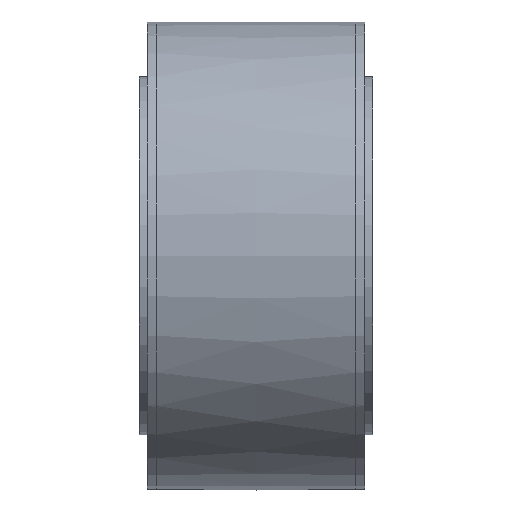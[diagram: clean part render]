
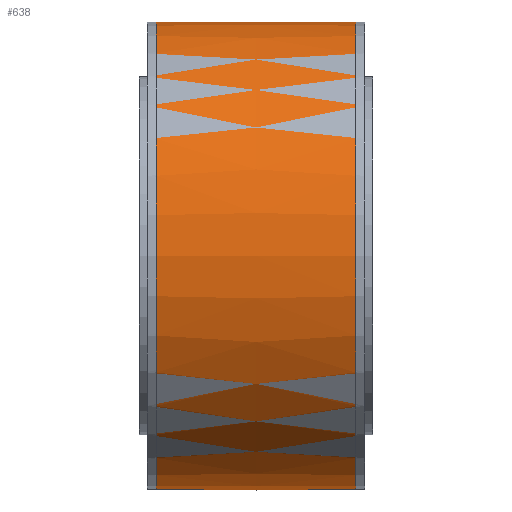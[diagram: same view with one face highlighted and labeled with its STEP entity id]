
A CAD part, front view. The second image highlights one B-rep face of the part: STEP entity #638.
In plain terms, the highlighted free-form (B-spline) face has degree [2, 2] with [3, 9] control points.
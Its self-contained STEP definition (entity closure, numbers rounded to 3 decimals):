
#198=(
BOUNDED_CURVE()
B_SPLINE_CURVE(2,(#1277,#1278,#1279),.UNSPECIFIED.,.F.,.F.)
B_SPLINE_CURVE_WITH_KNOTS((3,3),(-0.013,0.013),
 .UNSPECIFIED.)
CURVE()
GEOMETRIC_REPRESENTATION_ITEM()
RATIONAL_B_SPLINE_CURVE((1.,1.,1.))
REPRESENTATION_ITEM('')
);
#200=(
BOUNDED_SURFACE()
B_SPLINE_SURFACE(2,2,((#1246,#1247,#1248,#1249,#1250,#1251,#1252,#1253,
#1254),(#1255,#1256,#1257,#1258,#1259,#1260,#1261,#1262,#1263),(#1264,#1265,
#1266,#1267,#1268,#1269,#1270,#1271,#1272)),.UNSPECIFIED.,.F.,.T.,.F.)
B_SPLINE_SURFACE_WITH_KNOTS((3,3),(3,2,2,2,3),(-0.013,0.013),
(-3.142,-1.571,0.,1.571,3.142),
 .UNSPECIFIED.)
GEOMETRIC_REPRESENTATION_ITEM()
RATIONAL_B_SPLINE_SURFACE(((1.,0.707,1.,0.707,1.,
0.707,1.,0.707,1.),(1.,0.707,
1.,0.707,1.,0.707,
1.,0.707,1.),(1.,0.707,
1.,0.707,1.,0.707,1.,0.707,1.)))
REPRESENTATION_ITEM('')
SURFACE()
);
#305=FACE_OUTER_BOUND('',#371,.T.);
#371=EDGE_LOOP('',(#581,#582,#583,#584,#585,#586));
#419=CIRCLE('',#800,15.008);
#420=CIRCLE('',#801,15.008);
#421=CIRCLE('',#802,15.008);
#422=CIRCLE('',#803,15.008);
#461=VERTEX_POINT('',#1242);
#462=VERTEX_POINT('',#1243);
#463=VERTEX_POINT('',#1273);
#464=VERTEX_POINT('',#1274);
#504=EDGE_CURVE('',#461,#462,#419,.T.);
#505=EDGE_CURVE('',#462,#461,#420,.T.);
#506=EDGE_CURVE('',#463,#464,#421,.T.);
#507=EDGE_CURVE('',#464,#463,#422,.T.);
#508=EDGE_CURVE('',#464,#462,#198,.T.);
#581=ORIENTED_EDGE('',*,*,#506,.F.);
#582=ORIENTED_EDGE('',*,*,#507,.F.);
#583=ORIENTED_EDGE('',*,*,#508,.T.);
#584=ORIENTED_EDGE('',*,*,#504,.F.);
#585=ORIENTED_EDGE('',*,*,#505,.F.);
#586=ORIENTED_EDGE('',*,*,#508,.F.);
#638=ADVANCED_FACE('',(#305),#200,.F.);
#800=AXIS2_PLACEMENT_3D('',#1244,#992,#993);
#801=AXIS2_PLACEMENT_3D('',#1245,#994,#995);
#802=AXIS2_PLACEMENT_3D('',#1275,#996,#997);
#803=AXIS2_PLACEMENT_3D('',#1276,#998,#999);
#992=DIRECTION('center_axis',(-1.,0.,0.));
#993=DIRECTION('ref_axis',(0.,-1.,0.));
#994=DIRECTION('center_axis',(-1.,0.,0.));
#995=DIRECTION('ref_axis',(0.,-1.,0.));
#996=DIRECTION('center_axis',(1.,0.,0.));
#997=DIRECTION('ref_axis',(0.,-1.,0.));
#998=DIRECTION('center_axis',(1.,0.,0.));
#999=DIRECTION('ref_axis',(0.,-1.,0.));
#1242=CARTESIAN_POINT('',(-6.408,15.008,0.));
#1243=CARTESIAN_POINT('',(-6.408,0.,15.008));
#1244=CARTESIAN_POINT('Origin',(-6.408,0.,
0.));
#1245=CARTESIAN_POINT('Origin',(-6.408,0.,
0.));
#1246=CARTESIAN_POINT('Ctrl Pts',(-6.408,0.,
15.008));
#1247=CARTESIAN_POINT('Ctrl Pts',(-6.408,-15.008,15.008));
#1248=CARTESIAN_POINT('Ctrl Pts',(-6.408,-15.008,0.));
#1249=CARTESIAN_POINT('Ctrl Pts',(-6.408,-15.008,-15.008));
#1250=CARTESIAN_POINT('Ctrl Pts',(-6.408,0.,
-15.008));
#1251=CARTESIAN_POINT('Ctrl Pts',(-6.408,15.008,-15.008));
#1252=CARTESIAN_POINT('Ctrl Pts',(-6.408,15.008,0.));
#1253=CARTESIAN_POINT('Ctrl Pts',(-6.408,15.008,15.008));
#1254=CARTESIAN_POINT('Ctrl Pts',(-6.408,0.,
15.008));
#1255=CARTESIAN_POINT('Ctrl Pts',(0.,0.,15.09));
#1256=CARTESIAN_POINT('Ctrl Pts',(0.,-15.09,
15.09));
#1257=CARTESIAN_POINT('Ctrl Pts',(0.,-15.09,
0.));
#1258=CARTESIAN_POINT('Ctrl Pts',(0.,-15.09,
-15.09));
#1259=CARTESIAN_POINT('Ctrl Pts',(0.,0.,-15.09));
#1260=CARTESIAN_POINT('Ctrl Pts',(0.,15.09,
-15.09));
#1261=CARTESIAN_POINT('Ctrl Pts',(0.,15.09,
0.));
#1262=CARTESIAN_POINT('Ctrl Pts',(0.,15.09,
15.09));
#1263=CARTESIAN_POINT('Ctrl Pts',(0.,0.,15.09));
#1264=CARTESIAN_POINT('Ctrl Pts',(6.408,0.,
15.008));
#1265=CARTESIAN_POINT('Ctrl Pts',(6.408,-15.008,15.008));
#1266=CARTESIAN_POINT('Ctrl Pts',(6.408,-15.008,0.));
#1267=CARTESIAN_POINT('Ctrl Pts',(6.408,-15.008,-15.008));
#1268=CARTESIAN_POINT('Ctrl Pts',(6.408,0.,
-15.008));
#1269=CARTESIAN_POINT('Ctrl Pts',(6.408,15.008,-15.008));
#1270=CARTESIAN_POINT('Ctrl Pts',(6.408,15.008,0.));
#1271=CARTESIAN_POINT('Ctrl Pts',(6.408,15.008,15.008));
#1272=CARTESIAN_POINT('Ctrl Pts',(6.408,0.,
15.008));
#1273=CARTESIAN_POINT('',(6.408,15.008,0.));
#1274=CARTESIAN_POINT('',(6.408,0.,15.008));
#1275=CARTESIAN_POINT('Origin',(6.408,0.,0.));
#1276=CARTESIAN_POINT('Origin',(6.408,0.,0.));
#1277=CARTESIAN_POINT('Ctrl Pts',(6.408,0.,
15.008));
#1278=CARTESIAN_POINT('Ctrl Pts',(0.,0.,15.09));
#1279=CARTESIAN_POINT('Ctrl Pts',(-6.408,0.,
15.008));
